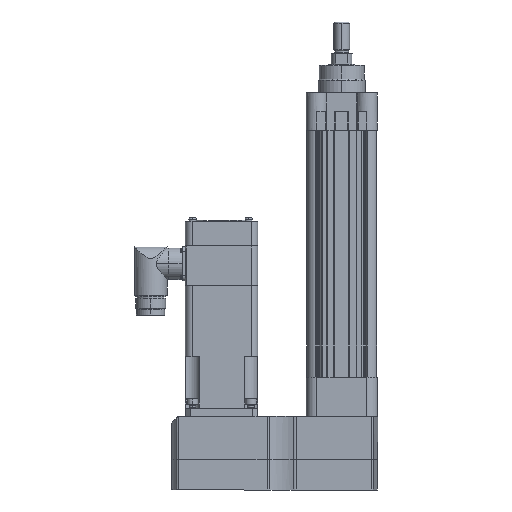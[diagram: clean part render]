
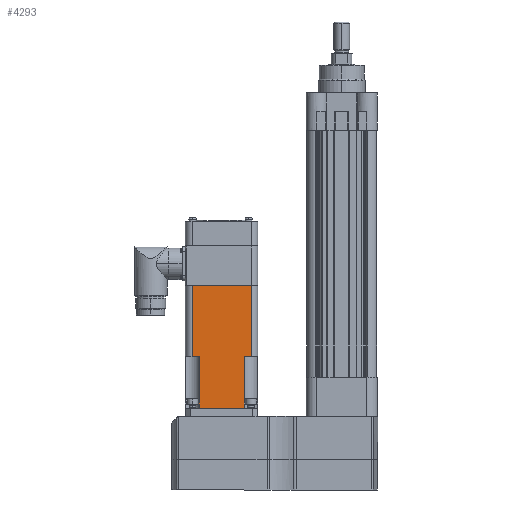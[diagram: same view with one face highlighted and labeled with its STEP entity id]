
A CAD part, left-side view. The second image highlights one B-rep face of the part: STEP entity #4293.
In plain terms, the highlighted planar face has unit normal (-1, 0, 0) as drawn and (0, 0, -1) by its records, which use the part's own axes.
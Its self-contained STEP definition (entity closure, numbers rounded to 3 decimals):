
#602 = ORIENTED_EDGE ( 'NONE', *, *, #36004, .F. ) ;
#1324 = LINE ( 'NONE', #24639, #38209 ) ;
#1504 = CARTESIAN_POINT ( 'NONE',  ( -45.898, -27.559, -27.559 ) ) ;
#1781 = VECTOR ( 'NONE', #1796, 1000. ) ;
#1796 = DIRECTION ( 'NONE',  ( 1., 0., 0. ) ) ;
#3714 = EDGE_CURVE ( 'NONE', #5256, #44297, #24603, .T. ) ;
#3737 = CARTESIAN_POINT ( 'NONE',  ( -6.401, -17.084, -27.559 ) ) ;
#4293 = ADVANCED_FACE ( 'NONE', ( #16203 ), #33630, .F. ) ;
#4837 = VECTOR ( 'NONE', #11316, 1000. ) ;
#5225 = EDGE_CURVE ( 'NONE', #40514, #27561, #7715, .T. ) ;
#5256 = VERTEX_POINT ( 'NONE', #22883 ) ;
#5608 = VECTOR ( 'NONE', #38655, 1000. ) ;
#6939 = LINE ( 'NONE', #13347, #25909 ) ;
#7232 = EDGE_CURVE ( 'NONE', #14273, #16672, #6939, .T. ) ;
#7472 = ORIENTED_EDGE ( 'NONE', *, *, #3714, .T. ) ;
#7708 = CARTESIAN_POINT ( 'NONE',  ( -100.076, 22.479, -27.559 ) ) ;
#7715 = LINE ( 'NONE', #1504, #36219 ) ;
#8589 = EDGE_CURVE ( 'NONE', #26489, #44297, #20789, .T. ) ;
#11316 = DIRECTION ( 'NONE',  ( 1., 0., 0. ) ) ;
#11815 = CARTESIAN_POINT ( 'NONE',  ( -100.076, -27.559, -27.559 ) ) ;
#13347 = CARTESIAN_POINT ( 'NONE',  ( -100.076, -22.479, -27.559 ) ) ;
#13463 = CARTESIAN_POINT ( 'NONE',  ( -45.898, -17.084, -27.559 ) ) ;
#13499 = CARTESIAN_POINT ( 'NONE',  ( -6.401, -27.559, -27.559 ) ) ;
#14039 = DIRECTION ( 'NONE',  ( 0., -1., 0. ) ) ;
#14273 = VERTEX_POINT ( 'NONE', #30084 ) ;
#14293 = VECTOR ( 'NONE', #30126, 1000. ) ;
#14808 = ORIENTED_EDGE ( 'NONE', *, *, #5225, .T. ) ;
#15677 = VECTOR ( 'NONE', #36796, 1000. ) ;
#15845 = DIRECTION ( 'NONE',  ( 0., 0., 1. ) ) ;
#16203 = FACE_OUTER_BOUND ( 'NONE', #21745, .T. ) ;
#16672 = VERTEX_POINT ( 'NONE', #37622 ) ;
#17397 = EDGE_CURVE ( 'NONE', #41520, #40514, #34446, .T. ) ;
#19266 = CARTESIAN_POINT ( 'NONE',  ( -100.076, -27.559, -27.559 ) ) ;
#19798 = CARTESIAN_POINT ( 'NONE',  ( -45.898, 22.479, -27.559 ) ) ;
#20789 = LINE ( 'NONE', #23171, #1781 ) ;
#21595 = ORIENTED_EDGE ( 'NONE', *, *, #7232, .T. ) ;
#21745 = EDGE_LOOP ( 'NONE', ( #36767, #21595, #602, #27153, #14808, #34959, #7472, #33617 ) ) ;
#22883 = CARTESIAN_POINT ( 'NONE',  ( -6.401, 17.084, -27.559 ) ) ;
#22956 = CARTESIAN_POINT ( 'NONE',  ( -45.898, 17.084, -27.559 ) ) ;
#23171 = CARTESIAN_POINT ( 'NONE',  ( -45.898, -17.084, -27.559 ) ) ;
#23408 = AXIS2_PLACEMENT_3D ( 'NONE', #19266, #15845, #40863 ) ;
#24026 = LINE ( 'NONE', #11815, #15677 ) ;
#24603 = LINE ( 'NONE', #13499, #5608 ) ;
#24639 = CARTESIAN_POINT ( 'NONE',  ( -45.898, -27.559, -27.559 ) ) ;
#25909 = VECTOR ( 'NONE', #41990, 1000. ) ;
#26462 = DIRECTION ( 'NONE',  ( 0., -1., 0. ) ) ;
#26489 = VERTEX_POINT ( 'NONE', #13463 ) ;
#27153 = ORIENTED_EDGE ( 'NONE', *, *, #17397, .T. ) ;
#27159 = EDGE_CURVE ( 'NONE', #26489, #14273, #1324, .T. ) ;
#27561 = VERTEX_POINT ( 'NONE', #41845 ) ;
#30084 = CARTESIAN_POINT ( 'NONE',  ( -45.898, -22.479, -27.559 ) ) ;
#30126 = DIRECTION ( 'NONE',  ( -1., 0., 0. ) ) ;
#33617 = ORIENTED_EDGE ( 'NONE', *, *, #8589, .F. ) ;
#33630 = PLANE ( 'NONE',  #23408 ) ;
#34446 = LINE ( 'NONE', #7708, #4837 ) ;
#34959 = ORIENTED_EDGE ( 'NONE', *, *, #38829, .F. ) ;
#35515 = LINE ( 'NONE', #22956, #14293 ) ;
#36004 = EDGE_CURVE ( 'NONE', #41520, #16672, #24026, .T. ) ;
#36219 = VECTOR ( 'NONE', #26462, 1000. ) ;
#36767 = ORIENTED_EDGE ( 'NONE', *, *, #27159, .T. ) ;
#36796 = DIRECTION ( 'NONE',  ( 0., -1., 0. ) ) ;
#37622 = CARTESIAN_POINT ( 'NONE',  ( -100.076, -22.479, -27.559 ) ) ;
#38209 = VECTOR ( 'NONE', #14039, 1000. ) ;
#38655 = DIRECTION ( 'NONE',  ( 0., -1., 0. ) ) ;
#38829 = EDGE_CURVE ( 'NONE', #5256, #27561, #35515, .T. ) ;
#40514 = VERTEX_POINT ( 'NONE', #19798 ) ;
#40863 = DIRECTION ( 'NONE',  ( 1., 0., 0. ) ) ;
#41469 = CARTESIAN_POINT ( 'NONE',  ( -100.076, 22.479, -27.559 ) ) ;
#41520 = VERTEX_POINT ( 'NONE', #41469 ) ;
#41845 = CARTESIAN_POINT ( 'NONE',  ( -45.898, 17.084, -27.559 ) ) ;
#41990 = DIRECTION ( 'NONE',  ( -1., 0., 0. ) ) ;
#44297 = VERTEX_POINT ( 'NONE', #3737 ) ;
